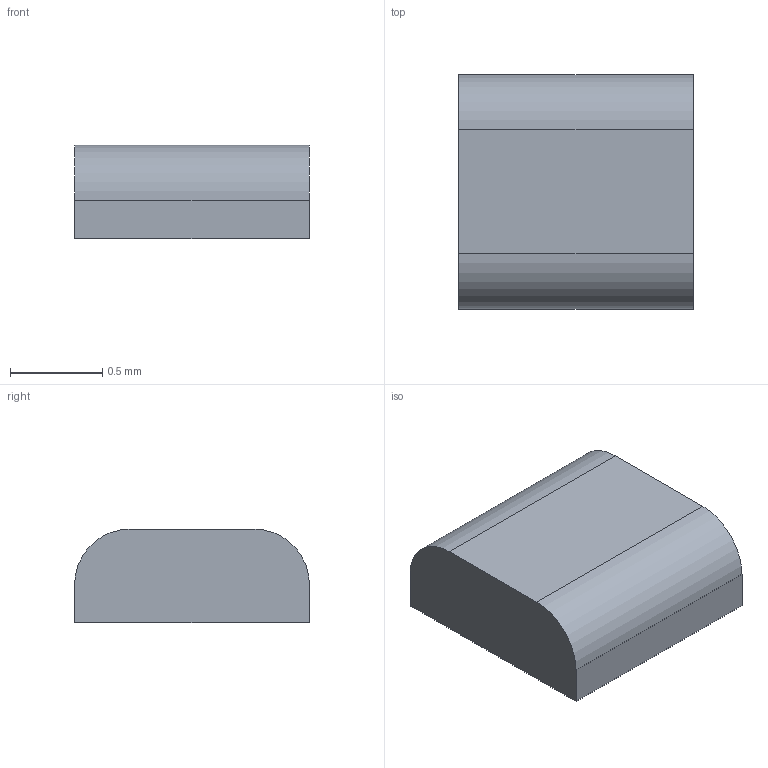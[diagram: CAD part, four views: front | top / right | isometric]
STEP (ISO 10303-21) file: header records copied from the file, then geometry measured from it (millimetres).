
FILE_DESCRIPTION(/* description */ ('STEP AP242 Edition 2','CAx-IF Rec.Pracs.---Representation and Presentation of Product Manufacturing Information (PMI)---4.0---2014-10-13','CAx-IF Rec.Pracs.---3D Tessellated Geometry---0.4---2014-09-14','2;1','CAx-IF Rec.Pracs.---User Defined Attributes---1.5---2016-08-15'),/* implementation_level */ '2;1');
FILE_NAME(/* name */ 'Assem2h - Flame Sensor (7)',/* time_stamp */ '2025-12-01T14:50:24Z',/* author */ (''),/* organization */ (''),/* preprocessor_version */ 'ST-DEVELOPER v20',/* originating_system */ 'ONSHAPE BY PTC INC, 1.207',/* authorisation */ ' ');
FILE_SCHEMA (('AP242_MANAGED_MODEL_BASED_3D_ENGINEERING_MIM_LF { 1 0 10303 442 3 1 4 }'));
Length unit declared in the file: metre
Products named in the file (1): Flame Sensor
Bounding box: 1.27 x 1.27 x 0.51 mm (x, y, z)
Volume: 0.8 mm3; surface area: 5.4 mm2
Topology: 1 solids, 1 shells, 8 faces, 18 edges, 12 vertices
Faces by surface type: plane 6, cylinder 2
Entity records: 248 total; most frequent: DIRECTION 40, CARTESIAN_POINT 39, ORIENTED_EDGE 36, EDGE_CURVE 18, LINE 14, VECTOR 14, AXIS2_PLACEMENT_3D 13, VERTEX_POINT 12
